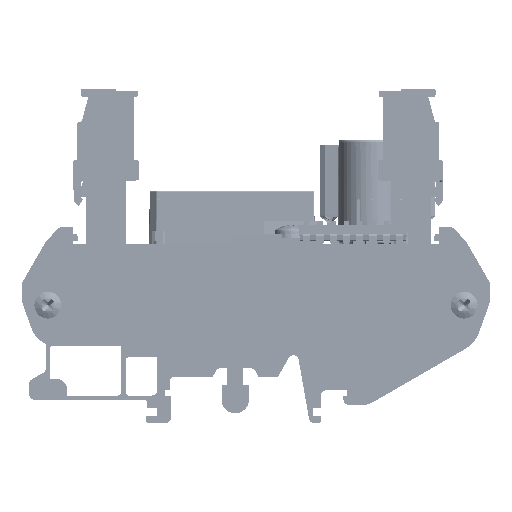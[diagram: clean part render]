
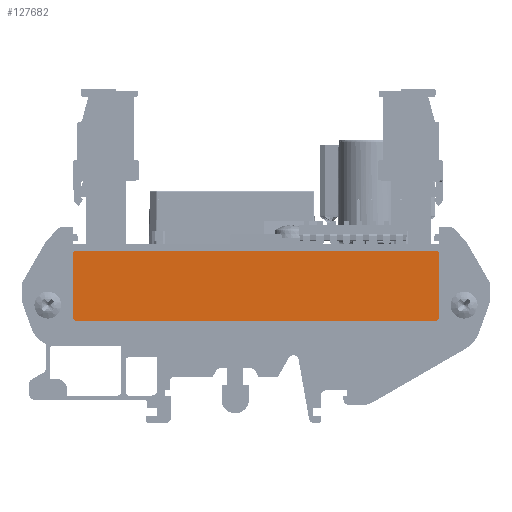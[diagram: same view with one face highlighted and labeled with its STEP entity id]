
A CAD part, left-side view. The second image highlights one B-rep face of the part: STEP entity #127682.
In plain terms, the highlighted planar face has unit normal (-1, 0, 0).
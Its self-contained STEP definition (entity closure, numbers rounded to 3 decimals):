
#1655=PLANE('',#135233);
#7084=FACE_OUTER_BOUND('',#13953,.T.);
#13953=EDGE_LOOP('',(#86456,#86457,#86458,#86459,#86460,#86461,#86462,#86463));
#21196=CIRCLE('',#134922,0.5);
#21315=CIRCLE('',#135172,0.5);
#21317=CIRCLE('',#135178,0.5);
#21331=CIRCLE('',#135231,0.5);
#26074=LINE('',#187343,#39723);
#26448=LINE('',#188342,#40097);
#26451=LINE('',#188350,#40100);
#26522=LINE('',#188522,#40171);
#39723=VECTOR('',#147700,1000.);
#40097=VECTOR('',#148612,1000.);
#40100=VECTOR('',#148617,1000.);
#40171=VECTOR('',#148804,1000.);
#53454=VERTEX_POINT('',#187340);
#53455=VERTEX_POINT('',#187342);
#53471=VERTEX_POINT('',#187393);
#53809=VERTEX_POINT('',#188333);
#53811=VERTEX_POINT('',#188340);
#53814=VERTEX_POINT('',#188347);
#53815=VERTEX_POINT('',#188349);
#53858=VERTEX_POINT('',#188517);
#65834=EDGE_CURVE('',#53454,#53455,#26074,.T.);
#65860=EDGE_CURVE('',#53455,#53471,#21196,.T.);
#66332=EDGE_CURVE('',#53809,#53454,#21315,.T.);
#66335=EDGE_CURVE('',#53811,#53809,#26448,.T.);
#66338=EDGE_CURVE('',#53815,#53814,#26451,.T.);
#66341=EDGE_CURVE('',#53815,#53811,#21317,.T.);
#66424=EDGE_CURVE('',#53858,#53814,#21331,.T.);
#66425=EDGE_CURVE('',#53471,#53858,#26522,.T.);
#86456=ORIENTED_EDGE('',*,*,#66425,.F.);
#86457=ORIENTED_EDGE('',*,*,#65860,.F.);
#86458=ORIENTED_EDGE('',*,*,#65834,.F.);
#86459=ORIENTED_EDGE('',*,*,#66332,.F.);
#86460=ORIENTED_EDGE('',*,*,#66335,.F.);
#86461=ORIENTED_EDGE('',*,*,#66341,.F.);
#86462=ORIENTED_EDGE('',*,*,#66338,.T.);
#86463=ORIENTED_EDGE('',*,*,#66424,.F.);
#127682=ADVANCED_FACE('',(#7084),#1655,.F.);
#134922=AXIS2_PLACEMENT_3D('',#187394,#147751,#147752);
#135172=AXIS2_PLACEMENT_3D('',#188335,#148604,#148605);
#135178=AXIS2_PLACEMENT_3D('',#188354,#148623,#148624);
#135231=AXIS2_PLACEMENT_3D('',#188519,#148798,#148799);
#135233=AXIS2_PLACEMENT_3D('',#188521,#148802,#148803);
#147700=DIRECTION('',(0.,0.,1.));
#147751=DIRECTION('center_axis',(1.,0.,0.));
#147752=DIRECTION('ref_axis',(0.,-1.,0.));
#148604=DIRECTION('center_axis',(1.,0.,0.));
#148605=DIRECTION('ref_axis',(0.,-1.,0.));
#148612=DIRECTION('',(0.,1.,0.));
#148617=DIRECTION('',(0.,0.,1.));
#148623=DIRECTION('center_axis',(1.,0.,0.));
#148624=DIRECTION('ref_axis',(0.,-1.,0.));
#148798=DIRECTION('center_axis',(1.,0.,0.));
#148799=DIRECTION('ref_axis',(0.,-1.,0.));
#148802=DIRECTION('center_axis',(1.,0.,0.));
#148803=DIRECTION('ref_axis',(0.,1.,0.));
#148804=DIRECTION('',(0.,-1.,0.));
#187340=CARTESIAN_POINT('',(-1.3,71.,-14.2));
#187342=CARTESIAN_POINT('',(-1.3,71.,-1.8));
#187343=CARTESIAN_POINT('',(-1.3,71.,-14.2));
#187393=CARTESIAN_POINT('',(-1.3,70.5,-1.3));
#187394=CARTESIAN_POINT('Origin',(-1.3,70.5,-1.8));
#188333=CARTESIAN_POINT('',(-1.3,70.5,-14.7));
#188335=CARTESIAN_POINT('Origin',(-1.3,70.5,-14.2));
#188340=CARTESIAN_POINT('',(-1.3,1.5,-14.7));
#188342=CARTESIAN_POINT('',(-1.3,1.5,-14.7));
#188347=CARTESIAN_POINT('',(-1.3,1.,-1.8));
#188349=CARTESIAN_POINT('',(-1.3,1.,-14.2));
#188350=CARTESIAN_POINT('',(-1.3,1.,-14.2));
#188354=CARTESIAN_POINT('Origin',(-1.3,1.5,-14.2));
#188517=CARTESIAN_POINT('',(-1.3,1.5,-1.3));
#188519=CARTESIAN_POINT('Origin',(-1.3,1.5,-1.8));
#188521=CARTESIAN_POINT('Origin',(-1.3,56.,-33.65));
#188522=CARTESIAN_POINT('',(-1.3,70.5,-1.3));
